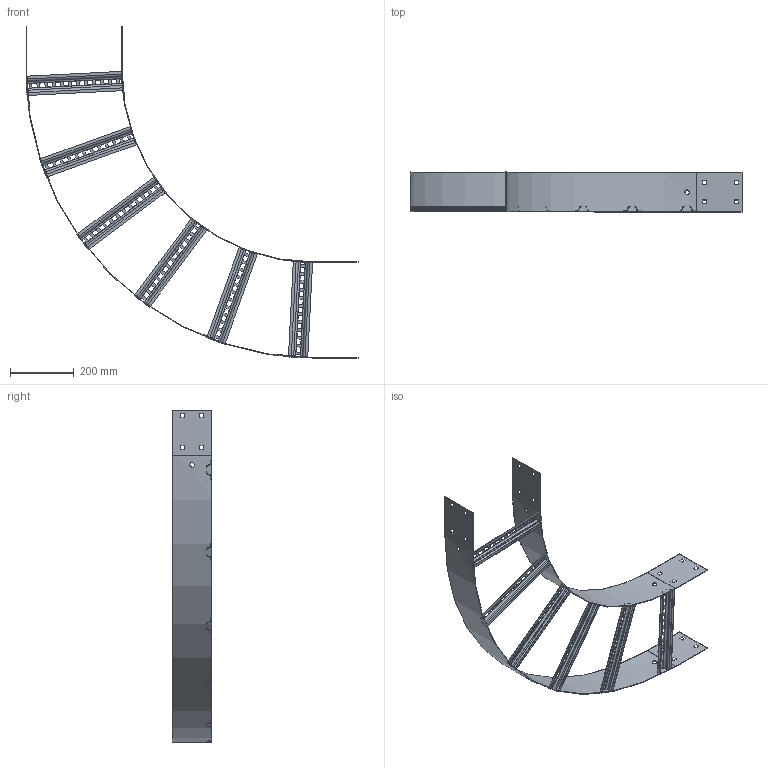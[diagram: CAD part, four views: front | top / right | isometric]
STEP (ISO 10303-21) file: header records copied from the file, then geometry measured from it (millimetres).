
FILE_DESCRIPTION (( 'STEP AP203' ), '1' );
FILE_NAME ('N3 B 3006.STEP', '2021-06-10T21:06:49', ( '' ), ( '' ), 'SwSTEP 2.0', 'SolidWorks 2020', '' );
FILE_SCHEMA (( 'CONFIG_CONTROL_DESIGN' ));
Length unit declared in the file: millimetre
Products named in the file (4): N3 RADIUS PLATE_N1-600 IR; Ladder Rung_Ladder Rung -  300mm; N3 B 3006; N3 RADIUS PLATE_N1-900
Assembly tree (8 placements, depth 2):
  N3 B 3006
    N3 RADIUS PLATE_N1-600 IR
    N3 RADIUS PLATE_N1-900
    Ladder Rung_Ladder Rung -  300mm  x6
Bounding box: 1042.5 x 124 x 1042.5 mm (x, y, z)
Volume: 911147.5 mm3; surface area: 987362.2 mm2
Topology: 8 solids, 8 shells, 640 faces, 1664 edges, 1040 vertices
Faces by surface type: plane 580, cylinder 60
Entity records: 7082 total; most frequent: CARTESIAN_POINT 1713, ORIENTED_EDGE 1008, DIRECTION 914, EDGE_CURVE 504, LINE 464, VECTOR 464, VERTEX_POINT 320, EDGE_LOOP 252
